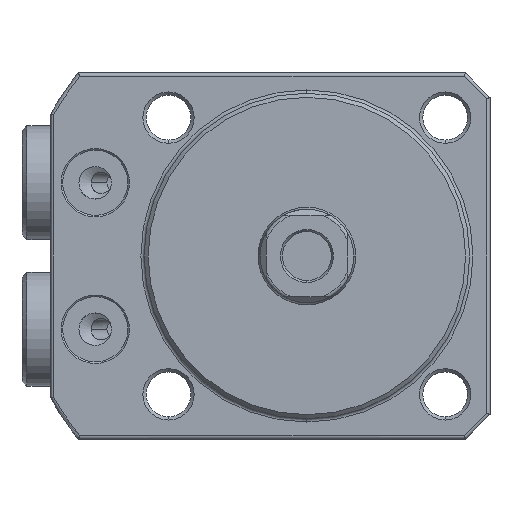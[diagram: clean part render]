
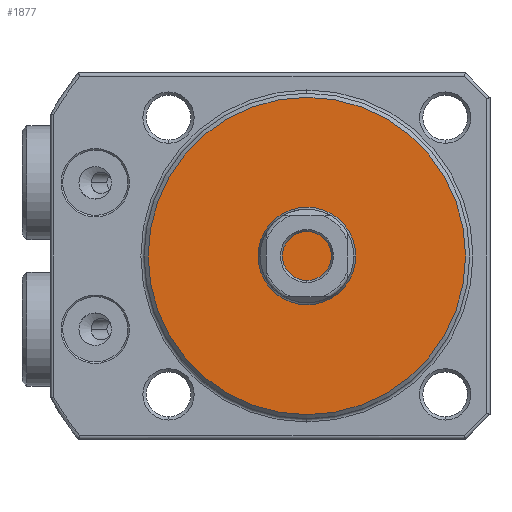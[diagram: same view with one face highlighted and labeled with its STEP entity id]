
A CAD part, front view. The second image highlights one B-rep face of the part: STEP entity #1877.
In plain terms, the highlighted planar face has unit normal (0, -1, 0) as drawn and (-1, 0, 0) by its records, which use the part's own axes.
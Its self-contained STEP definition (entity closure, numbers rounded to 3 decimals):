
#1664=PLANE('',#7192);
#1877=ADVANCED_FACE('',(#2330),#1664,.F.);
#2330=FACE_OUTER_BOUND('',#2679,.T.);
#2679=EDGE_LOOP('',(#4311));
#4311=ORIENTED_EDGE('',*,*,#6049,.T.);
#5400=VERTEX_POINT('',#10270);
#6049=EDGE_CURVE('',#5400,#5400,#6656,.T.);
#6656=CIRCLE('',#7191,19.5);
#7191=AXIS2_PLACEMENT_3D('',#10269,#8448,#8449);
#7192=AXIS2_PLACEMENT_3D('',#10271,#8450,#8451);
#8448=DIRECTION('',(-1.,0.,0.));
#8449=DIRECTION('',(0.,0.,-1.));
#8450=DIRECTION('',(1.,0.,0.));
#8451=DIRECTION('',(0.,0.,1.));
#10269=CARTESIAN_POINT('',(0.,0.,0.));
#10270=CARTESIAN_POINT('',(0.,0.,-19.5));
#10271=CARTESIAN_POINT('',(0.,0.,0.));
